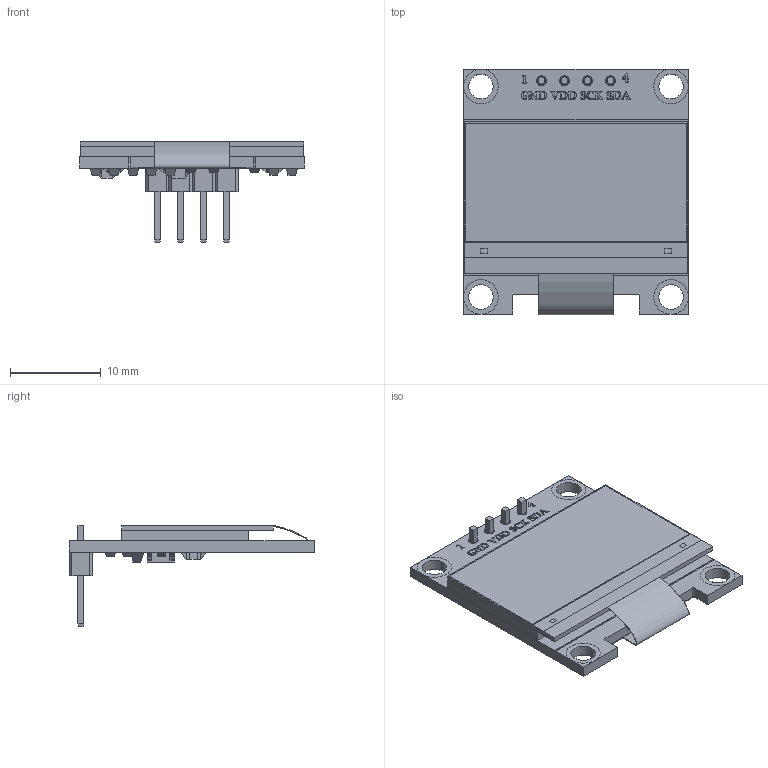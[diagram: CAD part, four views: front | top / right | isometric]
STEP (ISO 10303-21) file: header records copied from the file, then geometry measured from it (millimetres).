
FILE_DESCRIPTION(/* description */ (''),/* implementation_level */ '2;1');
FILE_NAME(/* name */ '0.96'''' OLES Display.step',/* time_stamp */ '2026-07-02T16:23:39+05:30',/* author */ (''),/* organization */ (''),/* preprocessor_version */ 'ST-DEVELOPER v20.1',/* originating_system */ 'Autodesk Translation Framework v15.8.0.0',/* authorisation */ '');
FILE_SCHEMA (('AUTOMOTIVE_DESIGN { 1 0 10303 214 3 1 1 }'));
Products named in the file (2): 0.96'' OLES Display; 4x1 male header pins
Assembly tree (1 placements, depth 2):
  0.96'' OLES Display
    4x1 male header pins
Bounding box: 24.76 x 27.06 x 11.12 mm (x, y, z)
Volume: 1491 mm3; surface area: 4800.1 mm2
Topology: 252 solids, 252 shells, 4064 faces, 10487 edges, 6926 vertices
Faces by surface type: plane 2328, bspline 1550, cylinder 186
Full cylindrical faces by diameter (mm): 0.9 x12, 1.1 x8, 2.7 x12, 3.8 x8
Entity records: 137294 total; most frequent: CARTESIAN_POINT 47983, ORIENTED_EDGE 20966, DIRECTION 12910, EDGE_CURVE 10483, LINE 7132, VECTOR 7132, VERTEX_POINT 6924, EDGE_LOOP 4211
